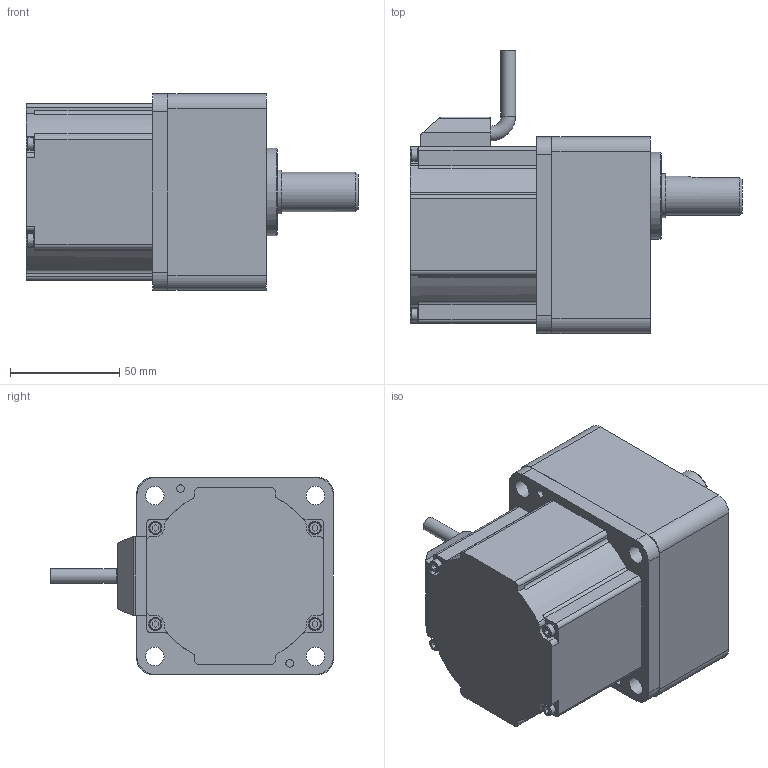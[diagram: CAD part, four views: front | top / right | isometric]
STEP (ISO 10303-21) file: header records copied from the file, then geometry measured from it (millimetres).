
FILE_DESCRIPTION( ( 'STEP AP203' ), ' ' );
FILE_NAME( 'p:/temp/worker_1/1320_3548/app_42_12015072810032042105433260eae72_000000_00_00_000000/format_0/MB9G5BV+MBMU1E2AB(200V).stp', '2015-07-28T08:03:21', ( '' ), ( '' ), ' ', 'PARTsolutions', ' ' );
FILE_SCHEMA( ( 'CONFIG_CONTROL_DESIGN' ) );
Length unit declared in the file: millimetre
Products named in the file (3): MB9G5BV+MBMU1E2AB(200V); _GP90-Motor; _MB9G_BV_5-20
Assembly tree (2 placements, depth 2):
  MB9G5BV+MBMU1E2AB(200V)
    _GP90-Motor
    _MB9G_BV_5-20
Bounding box: 152 x 129.5 x 90 mm (x, y, z)
Volume: 639188.5 mm3; surface area: 84706.2 mm2
Topology: 2 solids, 2 shells, 188 faces, 486 edges, 324 vertices
Faces by surface type: plane 100, cylinder 79, cone 8, torus 1
Full cylindrical faces by diameter (mm): 3.5 x2, 5.68 x4, 6 x4, 6.7 x1, 8.2 x1, 8.5 x8, 18 x1, 20 x1, 40 x1, 85 x1, 86 x1
Entity records: 5715 total; most frequent: DIRECTION 995, CARTESIAN_POINT 987, ORIENTED_EDGE 888, EDGE_CURVE 444, AXIS2_PLACEMENT_3D 363, VERTEX_POINT 315, LINE 269, VECTOR 269
